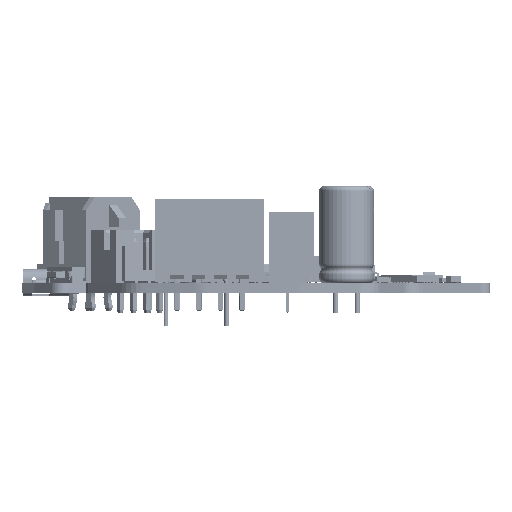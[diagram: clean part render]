
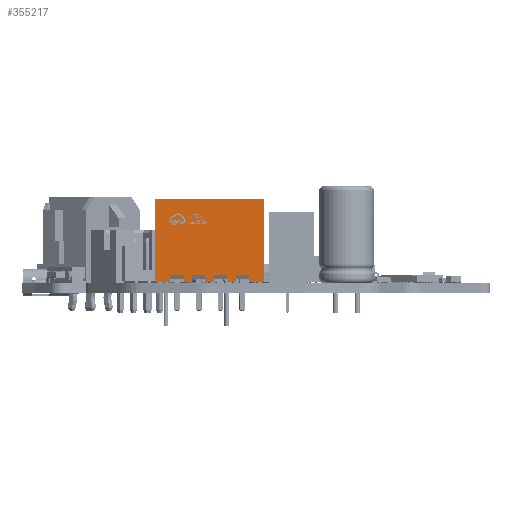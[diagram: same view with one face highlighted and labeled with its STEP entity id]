
A CAD part, left-side view. The second image highlights one B-rep face of the part: STEP entity #355217.
In plain terms, the highlighted planar face has unit normal (-1, 0, 0) as drawn and (0, 1, 0) by its records, which use the part's own axes.
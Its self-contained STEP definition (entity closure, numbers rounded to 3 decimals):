
#352060 = VERTEX_POINT('',#352061);
#352061 = CARTESIAN_POINT('',(-2.,4.381,
    0.1));
#352078 = VERTEX_POINT('',#352079);
#352079 = CARTESIAN_POINT('',(-3.,4.381,
    0.1));
#352085 = EDGE_CURVE('',#352060,#352078,#352086,.T.);
#352086 = LINE('',#352087,#352088);
#352087 = CARTESIAN_POINT('',(-6.25,4.381,
    0.1));
#352088 = VECTOR('',#352089,1.);
#352089 = DIRECTION('',(-1.,-0.,-0.));
#352110 = VERTEX_POINT('',#352111);
#352111 = CARTESIAN_POINT('',(-0.5,4.381,
    0.1));
#352117 = EDGE_CURVE('',#352118,#352110,#352120,.T.);
#352118 = VERTEX_POINT('',#352119);
#352119 = CARTESIAN_POINT('',(0.5,4.381,
    0.1));
#352120 = LINE('',#352121,#352122);
#352121 = CARTESIAN_POINT('',(-6.25,4.381,
    0.1));
#352122 = VECTOR('',#352123,1.);
#352123 = DIRECTION('',(-1.,-0.,-0.));
#352150 = VERTEX_POINT('',#352151);
#352151 = CARTESIAN_POINT('',(2.,4.381,
    0.1));
#352157 = EDGE_CURVE('',#352158,#352150,#352160,.T.);
#352158 = VERTEX_POINT('',#352159);
#352159 = CARTESIAN_POINT('',(3.,4.381,
    0.1));
#352160 = LINE('',#352161,#352162);
#352161 = CARTESIAN_POINT('',(-6.25,4.381,
    0.1));
#352162 = VECTOR('',#352163,1.);
#352163 = DIRECTION('',(-1.,-0.,-0.));
#352273 = VERTEX_POINT('',#352274);
#352274 = CARTESIAN_POINT('',(-4.5,4.381,
    0.1));
#352355 = VERTEX_POINT('',#352356);
#352356 = CARTESIAN_POINT('',(-6.25,4.381,
    0.1));
#352362 = EDGE_CURVE('',#352273,#352355,#352363,.T.);
#352363 = LINE('',#352364,#352365);
#352364 = CARTESIAN_POINT('',(-6.25,4.381,
    0.1));
#352365 = VECTOR('',#352366,1.);
#352366 = DIRECTION('',(-1.,-0.,-0.));
#354707 = VERTEX_POINT('',#354708);
#354708 = CARTESIAN_POINT('',(6.25,4.381,
    0.1));
#354714 = EDGE_CURVE('',#354715,#354707,#354717,.T.);
#354715 = VERTEX_POINT('',#354716);
#354716 = CARTESIAN_POINT('',(6.25,4.381,
    9.6));
#354717 = LINE('',#354718,#354719);
#354718 = CARTESIAN_POINT('',(6.25,4.381,
    9.6));
#354719 = VECTOR('',#354720,1.);
#354720 = DIRECTION('',(-0.,-0.,-1.));
#354846 = EDGE_CURVE('',#354715,#354847,#354849,.T.);
#354847 = VERTEX_POINT('',#354848);
#354848 = CARTESIAN_POINT('',(-6.25,4.381,
    9.6));
#354849 = LINE('',#354850,#354851);
#354850 = CARTESIAN_POINT('',(-6.25,4.381,
    9.6));
#354851 = VECTOR('',#354852,1.);
#354852 = DIRECTION('',(-1.,-0.,-0.));
#354935 = VERTEX_POINT('',#354936);
#354936 = CARTESIAN_POINT('',(4.5,4.381,
    0.1));
#354942 = EDGE_CURVE('',#354707,#354935,#354943,.T.);
#354943 = LINE('',#354944,#354945);
#354944 = CARTESIAN_POINT('',(-6.25,4.381,
    0.1));
#354945 = VECTOR('',#354946,1.);
#354946 = DIRECTION('',(-1.,-0.,-0.));
#355217 = ADVANCED_FACE('',(#355218),#355321,.F.);
#355218 = FACE_BOUND('',#355219,.T.);
#355219 = EDGE_LOOP('',(#355220,#355221,#355229,#355237,#355243,#355244,
    #355252,#355260,#355266,#355267,#355273,#355274,#355275,#355276,
    #355284,#355292,#355298,#355299,#355307,#355315));
#355220 = ORIENTED_EDGE('',*,*,#352117,.T.);
#355221 = ORIENTED_EDGE('',*,*,#355222,.F.);
#355222 = EDGE_CURVE('',#355223,#352110,#355225,.T.);
#355223 = VERTEX_POINT('',#355224);
#355224 = CARTESIAN_POINT('',(-0.5,4.381,
    0.816));
#355225 = LINE('',#355226,#355227);
#355226 = CARTESIAN_POINT('',(-0.5,4.381,
    0.1));
#355227 = VECTOR('',#355228,1.);
#355228 = DIRECTION('',(-0.,-0.,-1.));
#355229 = ORIENTED_EDGE('',*,*,#355230,.T.);
#355230 = EDGE_CURVE('',#355223,#355231,#355233,.T.);
#355231 = VERTEX_POINT('',#355232);
#355232 = CARTESIAN_POINT('',(-2.,4.381,
    0.816));
#355233 = LINE('',#355234,#355235);
#355234 = CARTESIAN_POINT('',(-0.5,4.381,
    0.816));
#355235 = VECTOR('',#355236,1.);
#355236 = DIRECTION('',(-1.,0.,-0.));
#355237 = ORIENTED_EDGE('',*,*,#355238,.T.);
#355238 = EDGE_CURVE('',#355231,#352060,#355239,.T.);
#355239 = LINE('',#355240,#355241);
#355240 = CARTESIAN_POINT('',(-2.,4.381,
    0.1));
#355241 = VECTOR('',#355242,1.);
#355242 = DIRECTION('',(-0.,-0.,-1.));
#355243 = ORIENTED_EDGE('',*,*,#352085,.T.);
#355244 = ORIENTED_EDGE('',*,*,#355245,.F.);
#355245 = EDGE_CURVE('',#355246,#352078,#355248,.T.);
#355246 = VERTEX_POINT('',#355247);
#355247 = CARTESIAN_POINT('',(-3.,4.381,
    0.816));
#355248 = LINE('',#355249,#355250);
#355249 = CARTESIAN_POINT('',(-3.,4.381,
    0.1));
#355250 = VECTOR('',#355251,1.);
#355251 = DIRECTION('',(-0.,-0.,-1.));
#355252 = ORIENTED_EDGE('',*,*,#355253,.T.);
#355253 = EDGE_CURVE('',#355246,#355254,#355256,.T.);
#355254 = VERTEX_POINT('',#355255);
#355255 = CARTESIAN_POINT('',(-4.5,4.381,
    0.816));
#355256 = LINE('',#355257,#355258);
#355257 = CARTESIAN_POINT('',(-3.,4.381,
    0.816));
#355258 = VECTOR('',#355259,1.);
#355259 = DIRECTION('',(-1.,0.,-0.));
#355260 = ORIENTED_EDGE('',*,*,#355261,.T.);
#355261 = EDGE_CURVE('',#355254,#352273,#355262,.T.);
#355262 = LINE('',#355263,#355264);
#355263 = CARTESIAN_POINT('',(-4.5,4.381,
    0.1));
#355264 = VECTOR('',#355265,1.);
#355265 = DIRECTION('',(-0.,-0.,-1.));
#355266 = ORIENTED_EDGE('',*,*,#352362,.T.);
#355267 = ORIENTED_EDGE('',*,*,#355268,.F.);
#355268 = EDGE_CURVE('',#354847,#352355,#355269,.T.);
#355269 = LINE('',#355270,#355271);
#355270 = CARTESIAN_POINT('',(-6.25,4.381,
    9.6));
#355271 = VECTOR('',#355272,1.);
#355272 = DIRECTION('',(-0.,-0.,-1.));
#355273 = ORIENTED_EDGE('',*,*,#354846,.F.);
#355274 = ORIENTED_EDGE('',*,*,#354714,.T.);
#355275 = ORIENTED_EDGE('',*,*,#354942,.T.);
#355276 = ORIENTED_EDGE('',*,*,#355277,.F.);
#355277 = EDGE_CURVE('',#355278,#354935,#355280,.T.);
#355278 = VERTEX_POINT('',#355279);
#355279 = CARTESIAN_POINT('',(4.5,4.381,
    0.816));
#355280 = LINE('',#355281,#355282);
#355281 = CARTESIAN_POINT('',(4.5,4.381,
    0.1));
#355282 = VECTOR('',#355283,1.);
#355283 = DIRECTION('',(-0.,-0.,-1.));
#355284 = ORIENTED_EDGE('',*,*,#355285,.T.);
#355285 = EDGE_CURVE('',#355278,#355286,#355288,.T.);
#355286 = VERTEX_POINT('',#355287);
#355287 = CARTESIAN_POINT('',(3.,4.381,
    0.816));
#355288 = LINE('',#355289,#355290);
#355289 = CARTESIAN_POINT('',(4.5,4.381,
    0.816));
#355290 = VECTOR('',#355291,1.);
#355291 = DIRECTION('',(-1.,0.,-0.));
#355292 = ORIENTED_EDGE('',*,*,#355293,.T.);
#355293 = EDGE_CURVE('',#355286,#352158,#355294,.T.);
#355294 = LINE('',#355295,#355296);
#355295 = CARTESIAN_POINT('',(3.,4.381,
    0.1));
#355296 = VECTOR('',#355297,1.);
#355297 = DIRECTION('',(-0.,-0.,-1.));
#355298 = ORIENTED_EDGE('',*,*,#352157,.T.);
#355299 = ORIENTED_EDGE('',*,*,#355300,.F.);
#355300 = EDGE_CURVE('',#355301,#352150,#355303,.T.);
#355301 = VERTEX_POINT('',#355302);
#355302 = CARTESIAN_POINT('',(2.,4.381,
    0.816));
#355303 = LINE('',#355304,#355305);
#355304 = CARTESIAN_POINT('',(2.,4.381,
    0.1));
#355305 = VECTOR('',#355306,1.);
#355306 = DIRECTION('',(-0.,-0.,-1.));
#355307 = ORIENTED_EDGE('',*,*,#355308,.T.);
#355308 = EDGE_CURVE('',#355301,#355309,#355311,.T.);
#355309 = VERTEX_POINT('',#355310);
#355310 = CARTESIAN_POINT('',(0.5,4.381,
    0.816));
#355311 = LINE('',#355312,#355313);
#355312 = CARTESIAN_POINT('',(2.,4.381,
    0.816));
#355313 = VECTOR('',#355314,1.);
#355314 = DIRECTION('',(-1.,0.,-0.));
#355315 = ORIENTED_EDGE('',*,*,#355316,.T.);
#355316 = EDGE_CURVE('',#355309,#352118,#355317,.T.);
#355317 = LINE('',#355318,#355319);
#355318 = CARTESIAN_POINT('',(0.5,4.381,
    0.1));
#355319 = VECTOR('',#355320,1.);
#355320 = DIRECTION('',(-0.,-0.,-1.));
#355321 = PLANE('',#355322);
#355322 = AXIS2_PLACEMENT_3D('',#355323,#355324,#355325);
#355323 = CARTESIAN_POINT('',(-6.25,4.381,
    9.6));
#355324 = DIRECTION('',(0.,-1.,0.));
#355325 = DIRECTION('',(0.,0.,-1.));
